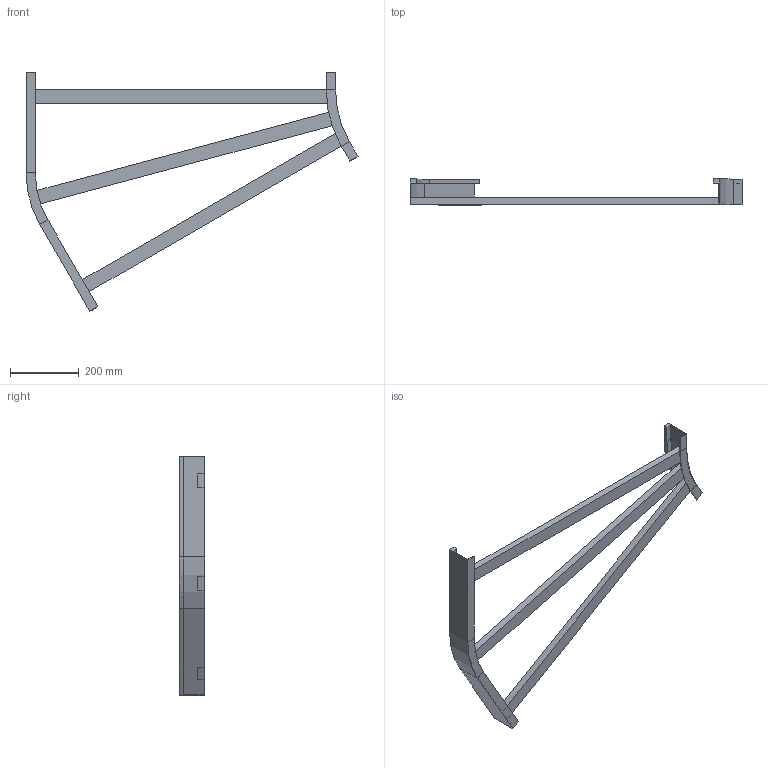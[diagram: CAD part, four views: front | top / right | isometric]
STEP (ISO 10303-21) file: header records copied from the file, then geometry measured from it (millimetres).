
FILE_DESCRIPTION (( 'STEP AP214' ), '1' );
FILE_NAME ('B2_12B3C900.step', '2025-02-21T15:11:33', ( '' ), ( '' ), 'SwSTEP 2.0', 'SolidWorks 2023', '' );
FILE_SCHEMA (( 'AUTOMOTIVE_DESIGN' ));
Length unit declared in the file: millimetre
Products named in the file (5): B2_LONGH.ESTERNO 30°_H75_R300+900; B2_12B3C900; TRAVERSINO_L926; TRAVERSINO_900; B2_LONGH.INTERNO 30°_H75_R300
Assembly tree (5 placements, depth 2):
  B2_12B3C900
    B2_LONGH.INTERNO 30°_H75_R300
    B2_LONGH.ESTERNO 30°_H75_R300+900
    TRAVERSINO_900  x2
    TRAVERSINO_L926
Bounding box: 965.19 x 75 x 693.3 mm (x, y, z)
Volume: 2592195.4 mm3; surface area: 570472.4 mm2
Topology: 5 solids, 5 shells, 70 faces, 148 edges, 88 vertices
Faces by surface type: plane 62, cylinder 8
Entity records: 1822 total; most frequent: DIRECTION 296, CARTESIAN_POINT 288, ORIENTED_EDGE 272, EDGE_CURVE 136, VECTOR 120, LINE 120, AXIS2_PLACEMENT_3D 88, VERTEX_POINT 80
